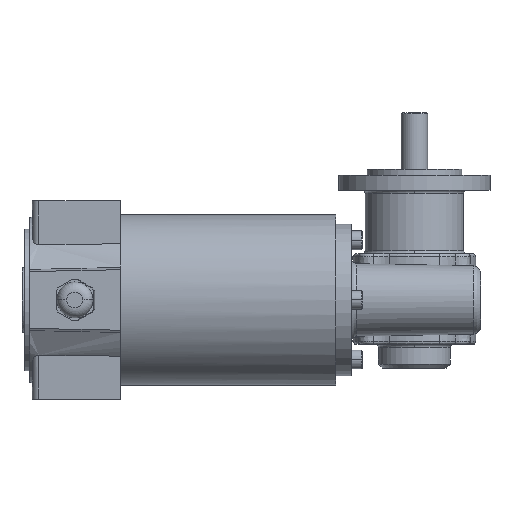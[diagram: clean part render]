
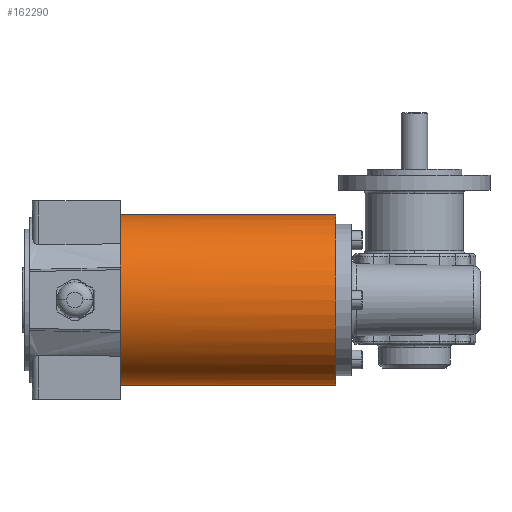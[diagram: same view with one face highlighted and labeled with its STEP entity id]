
A CAD part, front view. The second image highlights one B-rep face of the part: STEP entity #162290.
In plain terms, the highlighted cylindrical face has radius 45 mm (diameter 90 mm), a partial arc.
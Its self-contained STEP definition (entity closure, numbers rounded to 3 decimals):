
#21200=CARTESIAN_POINT('',(-64.,458.874,
-134.584));
#21210=DIRECTION('',(0.,1.,
-0.026));
#21220=DIRECTION('',(1.,0.,0.));
#21230=AXIS2_PLACEMENT_3D('',#21200,#21210,#21220);
#21240=CIRCLE('',#21230,45.);
#21250=CARTESIAN_POINT('',(-19.,458.874,
-134.584));
#21260=VERTEX_POINT('',#21250);
#21270=CARTESIAN_POINT('',(-109.,458.874,
-134.584));
#21280=VERTEX_POINT('',#21270);
#21290=EDGE_CURVE('',#21260,#21280,#21240,.T.);
#21360=CARTESIAN_POINT('',(-64.,458.874,
-134.584));
#21370=DIRECTION('',(0.,1.,
-0.026));
#21380=DIRECTION('',(1.,0.,0.));
#21390=AXIS2_PLACEMENT_3D('',#21360,#21370,#21380);
#21400=CYLINDRICAL_SURFACE('',#21390,45.);
#21410=CARTESIAN_POINT('',(-109.,458.874,
-134.584));
#21420=DIRECTION('',(0.,1.,
-0.026));
#21430=VECTOR('',#21420,1.);
#21440=LINE('',#21410,#21430);
#21450=CARTESIAN_POINT('',(-109.,572.835,
-137.568));
#21460=VERTEX_POINT('',#21450);
#21470=EDGE_CURVE('',#21280,#21460,#21440,.T.);
#21490=CARTESIAN_POINT('',(-64.,572.835,
-137.568));
#21500=DIRECTION('',(0.,1.,
-0.026));
#21510=DIRECTION('',(1.,0.,0.));
#21520=AXIS2_PLACEMENT_3D('',#21490,#21500,#21510);
#21530=CIRCLE('',#21520,45.);
#21540=CARTESIAN_POINT('',(-19.,572.835,
-137.568));
#21550=VERTEX_POINT('',#21540);
#21580=CARTESIAN_POINT('',(-19.,458.874,
-134.584));
#21590=DIRECTION('',(0.,1.,
-0.026));
#21600=VECTOR('',#21590,1.);
#21610=LINE('',#21580,#21600);
#21620=EDGE_CURVE('',#21260,#21550,#21610,.T.);
#21730=EDGE_CURVE('',#21550,#21460,#21530,.T.);
#162230=ORIENTED_EDGE('',*,*,#21290,.T.);
#162240=ORIENTED_EDGE('',*,*,#21620,.F.);
#162250=ORIENTED_EDGE('',*,*,#21730,.F.);
#162260=ORIENTED_EDGE('',*,*,#21470,.T.);
#162270=EDGE_LOOP('',(#162260,#162250,#162240,#162230));
#162280=FACE_OUTER_BOUND('',#162270,.T.);
#162290=ADVANCED_FACE('',(#162280),#21400,.T.);
